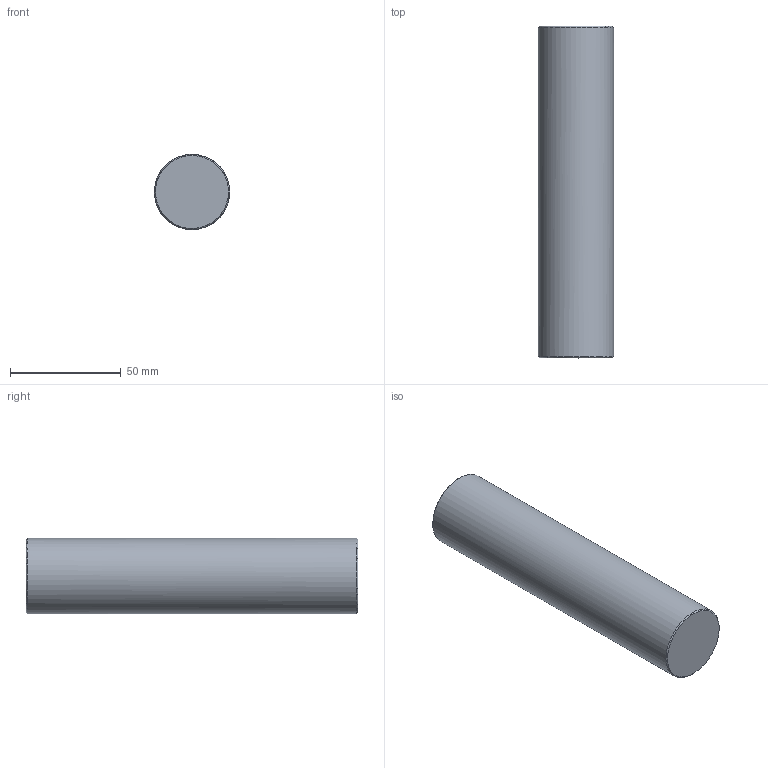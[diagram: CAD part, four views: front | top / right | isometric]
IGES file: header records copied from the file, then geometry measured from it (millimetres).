
Global section: file name: BM02-34D-150L; native system: unknown; preprocessor: unknown; author: unknown; organization: unknown; date: 20231024.135712; units: millimetre
Bounding box: 34 x 150 x 34 mm (x, y, z)
Volume: 135461.7 mm3; surface area: 18214.6 mm2
Topology: 1 solids, 1 shells, 7 faces, 14 edges, 9 vertices
Faces by surface type: bspline 7
